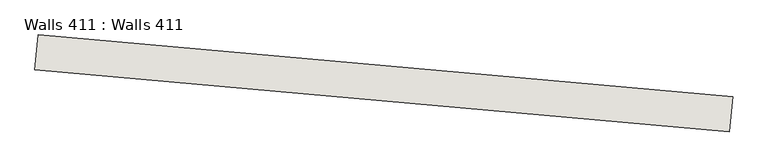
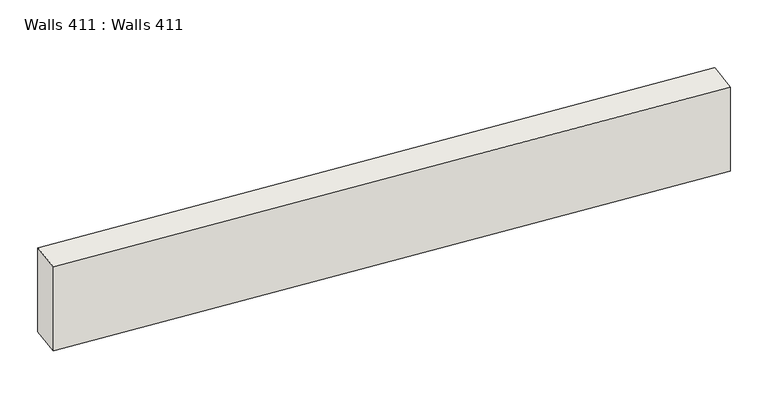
"""IFC4 building model written with IfcOpenShell, lengths in millimetres: wall geometry, Walls 411 : Walls 411."""

from ifc_helpers import new_model, si_unit, frame, origin, place, context, project, spatial, polyline, outline, extrude, source, transform, mapped, element, save


def walls_411_walls_411_26edfd60(model_context):
    return source(origin(), model_context, "Body", "SweptSolid", [
        extrude(outline(polyline([(-523233.2651441, -432064.7094237), (-523268.7600741, -432463.1314487), (-531237.2005726, -431753.2328474), (-531201.7056425, -431354.8108225), (-523233.2651441, -432064.7094237)])), frame((0.0, 0.0, 636860.0), z_axis=(0.0, 0.0, 1.0), x_axis=(1.0, 0.0, 0.0)), (0.0, 0.0, 1.0), 1100.0),
    ])


if __name__ == "__main__":
    model = new_model("IFC4")
    model_context = context("Model", 3, world=origin())
    ifc_project = project(units=[si_unit("LENGTHUNIT", "METRE", prefix="MILLI")], contexts=[model_context])
    site = spatial("IfcSite", under=ifc_project)
    building = spatial("IfcBuilding", under=site)
    placement = place(None, origin())
    walls_411_walls_411_shape = walls_411_walls_411_26edfd60(model_context)
    element("IfcWall", 1, ObjectType="Walls 411 : Walls 411", at=placement, inside=building, context=model_context, shape_type="MappedRepresentation", body=[
        mapped(walls_411_walls_411_shape, transform((0.0, 0.0, 0.0), x_axis=(1.0, 0.0, 0.0), y_axis=(0.0, 1.0, 0.0), z_axis=(0.0, 0.0, 1.0))),
    ])
    save(model, "model.ifc")
